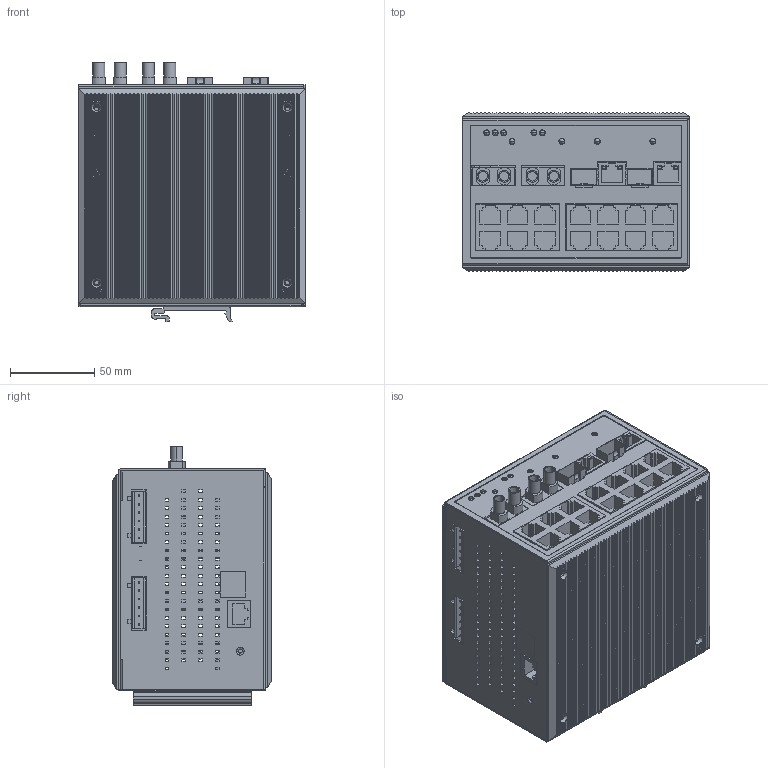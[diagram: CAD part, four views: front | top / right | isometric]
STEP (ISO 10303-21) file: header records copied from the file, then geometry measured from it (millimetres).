
FILE_DESCRIPTION((''),'2;1');
FILE_NAME('EDS-518A-MM-ST','2010-08-19T',('Chialu_Chang'),(''),'PRO/ENGINEER BY PARAMETRIC TECHNOLOGY CORPORATION, 2004440','PRO/ENGINEER BY PARAMETRIC TECHNOLOGY CORPORATION, 2004440','');
FILE_SCHEMA(('CONFIG_CONTROL_DESIGN'));
Products named in the file (1): EDS-518A-MM-ST
Bounding box: 135 x 94.03 x 153.79 mm (x, y, z)
Surface area: 538791.8 mm2 (no closed solid volume)
Topology: 0 solids, 104 shells, 7480 faces, 18921 edges, 12175 vertices
Faces by surface type: plane 6079, cylinder 980, cone 336, torus 62, bspline 23
Entity records: 223533 total; most frequent: CARTESIAN_POINT 42744, ORIENTED_EDGE 37650, DIRECTION 35010, EDGE_CURVE 18883, VECTOR 15696, LINE 15696, VERTEX_POINT 12175, AXIS2_PLACEMENT_3D 9657
